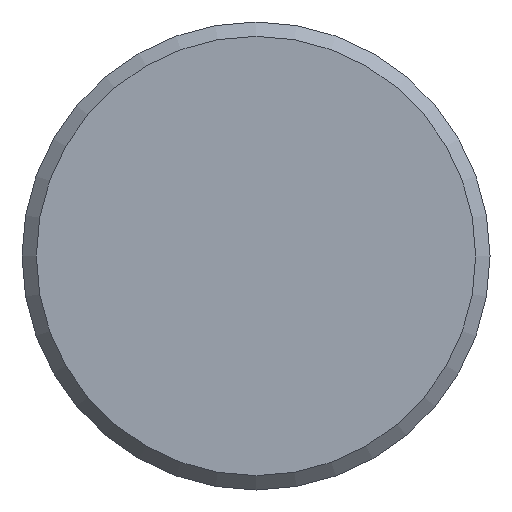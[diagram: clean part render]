
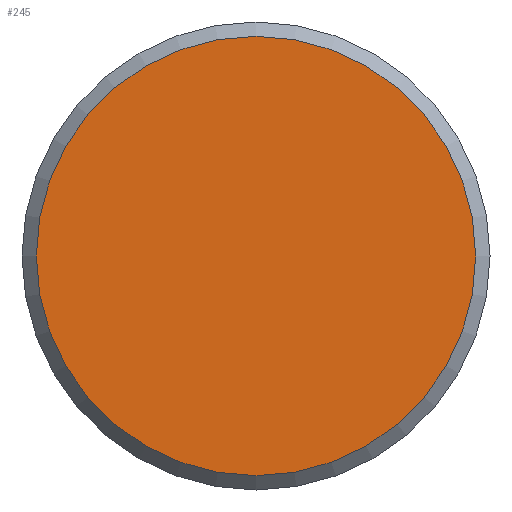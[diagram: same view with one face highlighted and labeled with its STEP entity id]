
A CAD part, front view. The second image highlights one B-rep face of the part: STEP entity #245.
In plain terms, the highlighted planar face has unit normal (0, -1, 0).
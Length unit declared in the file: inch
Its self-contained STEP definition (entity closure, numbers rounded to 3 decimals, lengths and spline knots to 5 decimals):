
#17=CIRCLE('',#271,0.88);
#35=FACE_OUTER_BOUND('',#48,.T.);
#48=EDGE_LOOP('',(#199));
#116=VERTEX_POINT('',#416);
#147=EDGE_CURVE('',#116,#116,#17,.T.);
#199=ORIENTED_EDGE('',*,*,#147,.F.);
#234=PLANE('',#277);
#245=ADVANCED_FACE('',(#35),#234,.T.);
#271=AXIS2_PLACEMENT_3D('',#417,#312,#313);
#277=AXIS2_PLACEMENT_3D('',#429,#326,#327);
#312=DIRECTION('center_axis',(0.,1.,0.));
#313=DIRECTION('ref_axis',(0.,0.,1.));
#326=DIRECTION('center_axis',(0.,-1.,0.));
#327=DIRECTION('ref_axis',(0.,0.,-1.));
#416=CARTESIAN_POINT('',(0.,0.,-0.88));
#417=CARTESIAN_POINT('Origin',(0.,0.,0.));
#429=CARTESIAN_POINT('Origin',(0.,0.,0.));
